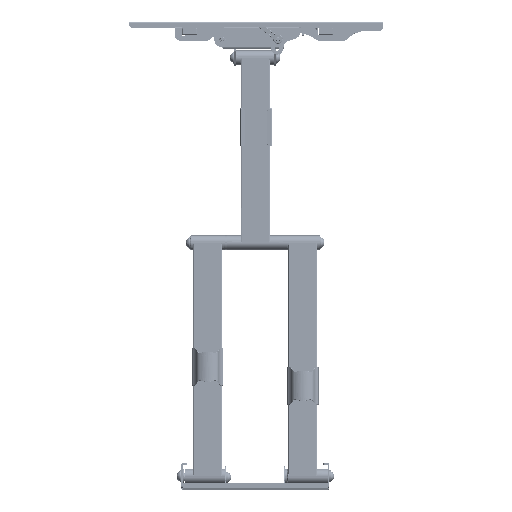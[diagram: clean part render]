
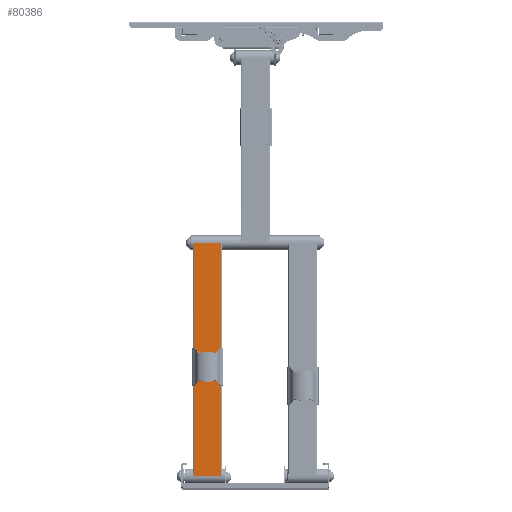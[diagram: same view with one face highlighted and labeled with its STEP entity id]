
A CAD part, top view. The second image highlights one B-rep face of the part: STEP entity #80386.
In plain terms, the highlighted planar face has unit normal (0, 0, 1) as drawn and (0, 0, -1) by its records, which use the part's own axes.
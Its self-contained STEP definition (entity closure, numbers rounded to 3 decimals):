
#335 = LINE ( 'NONE', #67736, #41283 ) ;
#1479 = VECTOR ( 'NONE', #69380, 1000. ) ;
#1516 = VERTEX_POINT ( 'NONE', #106450 ) ;
#11376 = EDGE_CURVE ( 'NONE', #1516, #56759, #335, .T. ) ;
#17226 = CARTESIAN_POINT ( 'NONE',  ( -200., -28., -12.5 ) ) ;
#21712 = ORIENTED_EDGE ( 'NONE', *, *, #61714, .T. ) ;
#22180 = CARTESIAN_POINT ( 'NONE',  ( -200., -34.5, -12.5 ) ) ;
#24749 = LINE ( 'NONE', #17226, #1479 ) ;
#29771 = ORIENTED_EDGE ( 'NONE', *, *, #83745, .T. ) ;
#29926 = EDGE_CURVE ( 'NONE', #43819, #93854, #47897, .T. ) ;
#31856 = CARTESIAN_POINT ( 'NONE',  ( -200., -28., -12.5 ) ) ;
#33132 = DIRECTION ( 'NONE',  ( 0., 1., 0. ) ) ;
#33166 = CARTESIAN_POINT ( 'NONE',  ( -200., 18., -12.5 ) ) ;
#35673 = VECTOR ( 'NONE', #41895, 1000. ) ;
#41283 = VECTOR ( 'NONE', #33132, 1000. ) ;
#41895 = DIRECTION ( 'NONE',  ( 1., 0., 0. ) ) ;
#42417 = VECTOR ( 'NONE', #48456, 1000. ) ;
#43819 = VERTEX_POINT ( 'NONE', #55214 ) ;
#45445 = DIRECTION ( 'NONE',  ( -1., 0., 0. ) ) ;
#47897 = LINE ( 'NONE', #22180, #42417 ) ;
#48456 = DIRECTION ( 'NONE',  ( 0., -1., 0. ) ) ;
#55214 = CARTESIAN_POINT ( 'NONE',  ( -200., 18., -12.5 ) ) ;
#56759 = VERTEX_POINT ( 'NONE', #80317 ) ;
#57242 = ORIENTED_EDGE ( 'NONE', *, *, #11376, .F. ) ;
#61714 = EDGE_CURVE ( 'NONE', #1516, #93854, #24749, .T. ) ;
#67736 = CARTESIAN_POINT ( 'NONE',  ( 200., -34.5, -12.5 ) ) ;
#69380 = DIRECTION ( 'NONE',  ( -1., 0., 0. ) ) ;
#70906 = CARTESIAN_POINT ( 'NONE',  ( -200., -34.5, -12.5 ) ) ;
#75649 = ORIENTED_EDGE ( 'NONE', *, *, #29926, .F. ) ;
#79987 = PLANE ( 'NONE',  #84339 ) ;
#80317 = CARTESIAN_POINT ( 'NONE',  ( 200., 18., -12.5 ) ) ;
#80386 = ADVANCED_FACE ( 'NONE', ( #106802 ), #79987, .T. ) ;
#81923 = LINE ( 'NONE', #33166, #35673 ) ;
#83745 = EDGE_CURVE ( 'NONE', #43819, #56759, #81923, .T. ) ;
#84339 = AXIS2_PLACEMENT_3D ( 'NONE', #70906, #97501, #45445 ) ;
#93854 = VERTEX_POINT ( 'NONE', #31856 ) ;
#97501 = DIRECTION ( 'NONE',  ( 0., 0., -1. ) ) ;
#99468 = EDGE_LOOP ( 'NONE', ( #75649, #29771, #57242, #21712 ) ) ;
#106450 = CARTESIAN_POINT ( 'NONE',  ( 200., -28., -12.5 ) ) ;
#106802 = FACE_OUTER_BOUND ( 'NONE', #99468, .T. ) ;
